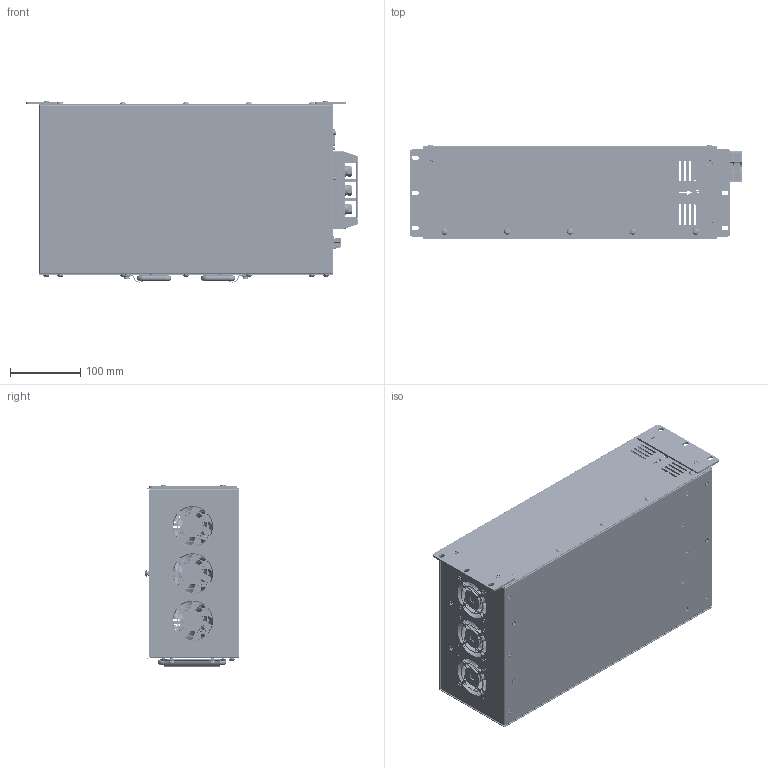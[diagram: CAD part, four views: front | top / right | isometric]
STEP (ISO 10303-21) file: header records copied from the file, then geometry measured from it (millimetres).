
FILE_DESCRIPTION(/* description */ (''),/* implementation_level */ '2;1');
FILE_NAME(/* name */ '',/* time_stamp */ '2026-06-12T11:00:12+09:00',/* author */ ('Administrator'),/* organization */ (''),/* preprocessor_version */ 'ST-DEVELOPER v20.1',/* originating_system */ 'Autodesk Inventor 2026',/* authorisation */ '');
FILE_SCHEMA (('AUTOMOTIVE_DESIGN { 1 0 10303 214 3 1 1 }'));
Products named in the file (1): VX3COM_OLED_HANDLE2SM_2026.06.11_단순화_
1
Bounding box: 474 x 134.59 x 258.45 mm (x, y, z)
Volume: 759439.6 mm3; surface area: 974583.7 mm2
Topology: 21 solids, 21 shells, 9693 faces, 25700 edges, 16687 vertices
Faces by surface type: plane 5748, cylinder 2094, bspline 1502, torus 230, cone 70, sphere 49
Full cylindrical faces by diameter (mm): 0.013 x9, 0.6 x3, 0.609 x1, 0.61 x27, 0.635 x9, 0.7 x18, 0.75 x18, 0.85 x3, 0.9 x24, 1 x5, 1.397 x9, 1.5 x4, 2.1 x4, 2.286 x9, 2.5 x4, 2.8 x12, 2.957 x12, 3 x6, 3.048 x4, 3.4 x6, 3.6 x19, 3.783 x2, 3.8 x6, 3.9 x2, 4 x47, 4.3 x12, 4.5 x36, 5 x23, 5.3 x20, 5.4 x6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
Entity records: 345780 total; most frequent: CARTESIAN_POINT 99759, ORIENTED_EDGE 51338, DIRECTION 44861, EDGE_CURVE 25669, VERTEX_POINT 16687, LINE 16671, VECTOR 16671, AXIS2_PLACEMENT_3D 14095
